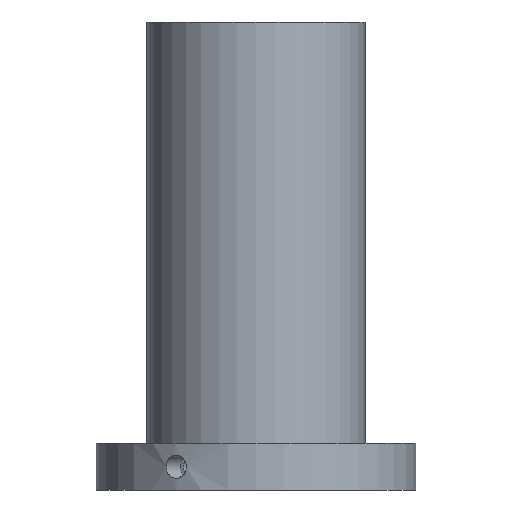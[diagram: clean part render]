
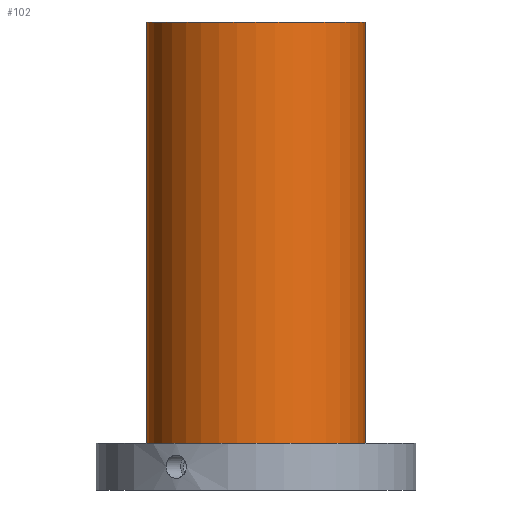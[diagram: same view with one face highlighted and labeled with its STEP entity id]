
A CAD part, front view. The second image highlights one B-rep face of the part: STEP entity #102.
In plain terms, the highlighted cylindrical face has radius 37.5 mm (diameter 75 mm), a full revolution.
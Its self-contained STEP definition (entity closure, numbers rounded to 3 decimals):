
#102=ADVANCED_FACE('',(#136,#137),#119,.T.);
#119=CYLINDRICAL_SURFACE('',#371,37.5);
#136=FACE_BOUND('',#188,.T.);
#137=FACE_BOUND('',#189,.T.);
#188=EDGE_LOOP('',(#240));
#189=EDGE_LOOP('',(#241));
#240=ORIENTED_EDGE('',*,*,#318,.F.);
#241=ORIENTED_EDGE('',*,*,#319,.T.);
#292=VERTEX_POINT('',#557);
#293=VERTEX_POINT('',#559);
#318=EDGE_CURVE('',#292,#292,#343,.T.);
#319=EDGE_CURVE('',#293,#293,#344,.T.);
#343=CIRCLE('',#369,37.5);
#344=CIRCLE('',#370,37.5);
#369=AXIS2_PLACEMENT_3D('',#556,#415,#416);
#370=AXIS2_PLACEMENT_3D('',#558,#417,#418);
#371=AXIS2_PLACEMENT_3D('',#560,#419,#420);
#415=DIRECTION('',(0.,0.,-1.));
#416=DIRECTION('',(1.,0.,0.));
#417=DIRECTION('',(0.,0.,-1.));
#418=DIRECTION('',(1.,0.,0.));
#419=DIRECTION('',(0.,0.,-1.));
#420=DIRECTION('',(-1.,0.,0.));
#556=CARTESIAN_POINT('',(0.,0.,16.));
#557=CARTESIAN_POINT('',(37.5,0.,16.));
#558=CARTESIAN_POINT('',(0.,0.,161.));
#559=CARTESIAN_POINT('',(37.5,0.,161.));
#560=CARTESIAN_POINT('',(0.,0.,161.));
